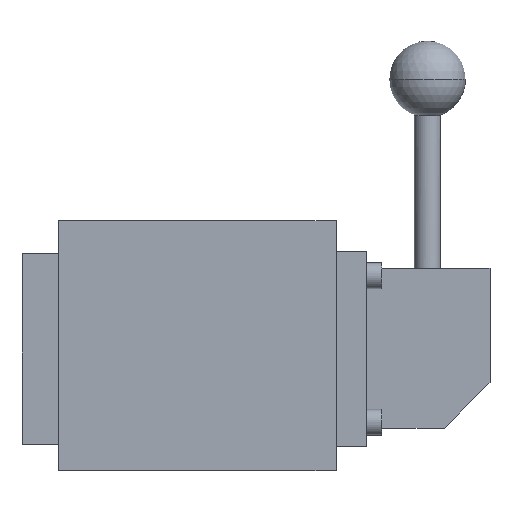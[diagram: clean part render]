
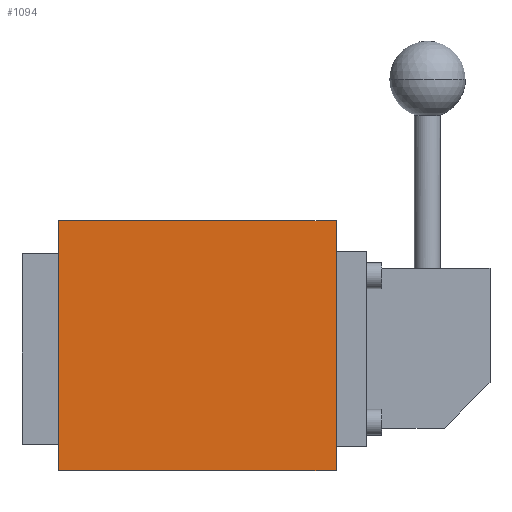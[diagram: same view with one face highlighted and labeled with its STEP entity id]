
A CAD part, front view. The second image highlights one B-rep face of the part: STEP entity #1094.
In plain terms, the highlighted planar face has unit normal (0, -1, 0).
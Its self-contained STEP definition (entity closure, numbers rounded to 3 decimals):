
#197 = CARTESIAN_POINT ( 'NONE',  ( -849.424, 550.692, 82. ) ) ;
#236 = CARTESIAN_POINT ( 'NONE',  ( -940.424, 550.692, 82. ) ) ;
#305 = PLANE ( 'NONE',  #820 ) ;
#318 = DIRECTION ( 'NONE',  ( 0., 1., 0. ) ) ;
#324 = VECTOR ( 'NONE', #2838, 1000. ) ;
#330 = DIRECTION ( 'NONE',  ( 0., 0., 1. ) ) ;
#442 = CARTESIAN_POINT ( 'NONE',  ( -940.424, 550.692, 0. ) ) ;
#820 = AXIS2_PLACEMENT_3D ( 'NONE', #236, #318, #330 ) ;
#1094 = ADVANCED_FACE ( 'NONE', ( #3226 ), #305, .F. ) ;
#1386 = VECTOR ( 'NONE', #4966, 1000. ) ;
#1515 = VERTEX_POINT ( 'NONE', #2397 ) ;
#1744 = VECTOR ( 'NONE', #4371, 1000. ) ;
#1866 = VERTEX_POINT ( 'NONE', #442 ) ;
#1930 = LINE ( 'NONE', #3770, #3845 ) ;
#1938 = CARTESIAN_POINT ( 'NONE',  ( -940.424, 550.692, 82. ) ) ;
#1948 = EDGE_CURVE ( 'NONE', #1515, #1866, #3795, .T. ) ;
#2113 = CARTESIAN_POINT ( 'NONE',  ( -940.424, 550.692, 82. ) ) ;
#2173 = EDGE_CURVE ( 'NONE', #3866, #3333, #1930, .T. ) ;
#2397 = CARTESIAN_POINT ( 'NONE',  ( -940.424, 550.692, 82. ) ) ;
#2731 = ORIENTED_EDGE ( 'NONE', *, *, #1948, .T. ) ;
#2838 = DIRECTION ( 'NONE',  ( 1., 0., 0. ) ) ;
#2843 = ORIENTED_EDGE ( 'NONE', *, *, #2173, .F. ) ;
#3014 = CARTESIAN_POINT ( 'NONE',  ( -849.424, 550.692, 0. ) ) ;
#3053 = DIRECTION ( 'NONE',  ( 0., 0., -1. ) ) ;
#3104 = ORIENTED_EDGE ( 'NONE', *, *, #4852, .F. ) ;
#3226 = FACE_OUTER_BOUND ( 'NONE', #4155, .T. ) ;
#3290 = ORIENTED_EDGE ( 'NONE', *, *, #4448, .T. ) ;
#3333 = VERTEX_POINT ( 'NONE', #3014 ) ;
#3490 = LINE ( 'NONE', #4316, #324 ) ;
#3594 = LINE ( 'NONE', #1938, #1386 ) ;
#3770 = CARTESIAN_POINT ( 'NONE',  ( -849.424, 550.692, 82. ) ) ;
#3795 = LINE ( 'NONE', #2113, #1744 ) ;
#3845 = VECTOR ( 'NONE', #3053, 1000. ) ;
#3866 = VERTEX_POINT ( 'NONE', #197 ) ;
#4155 = EDGE_LOOP ( 'NONE', ( #3290, #2843, #3104, #2731 ) ) ;
#4316 = CARTESIAN_POINT ( 'NONE',  ( -940.424, 550.692, 0. ) ) ;
#4371 = DIRECTION ( 'NONE',  ( 0., 0., -1. ) ) ;
#4448 = EDGE_CURVE ( 'NONE', #1866, #3333, #3490, .T. ) ;
#4852 = EDGE_CURVE ( 'NONE', #1515, #3866, #3594, .T. ) ;
#4966 = DIRECTION ( 'NONE',  ( 1., 0., 0. ) ) ;
